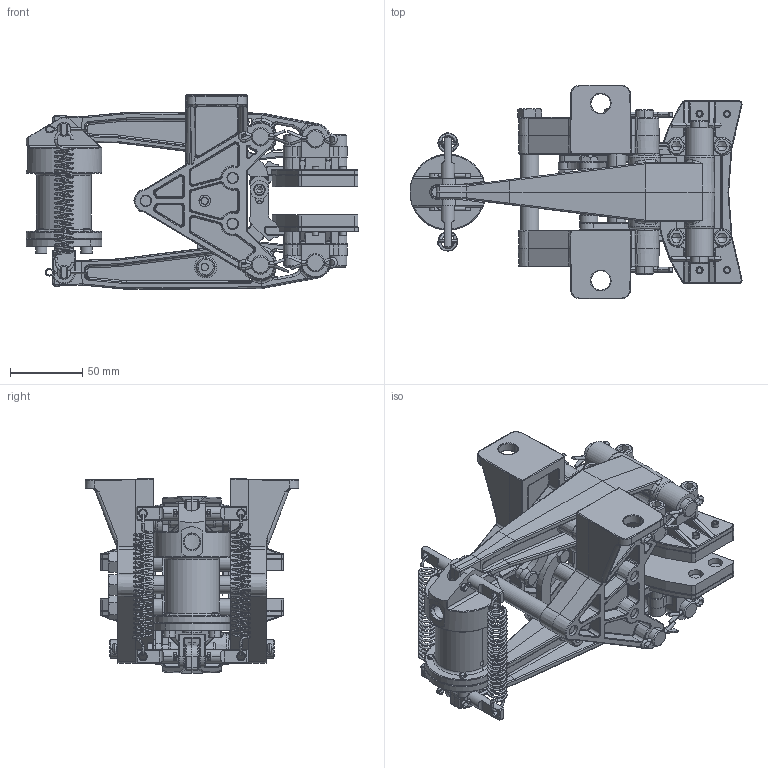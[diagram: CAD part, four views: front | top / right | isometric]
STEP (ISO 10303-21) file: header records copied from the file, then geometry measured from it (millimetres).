
FILE_DESCRIPTION (( 'STEP AP214' ), '1' );
FILE_NAME ('5019-HW.STEP', '2025-05-14T01:32:31', ( '' ), ( '' ), 'SwSTEP 2.0', 'SolidWorks 2023', '' );
FILE_SCHEMA (( 'AUTOMOTIVE_DESIGN' ));
Products named in the file (1): 5019-HW
Bounding box: 230.38 x 148.16 x 135 mm (x, y, z)
Surface area: 279644.4 mm2 (no closed solid volume)
Topology: 0 solids, 112 shells, 2512 faces, 7063 edges, 4514 vertices
Faces by surface type: cylinder 757, plane 671, bspline 515, cone 323, torus 241, sphere 5
Entity records: 116266 total; most frequent: CARTESIAN_POINT 57041, ORIENTED_EDGE 12205, DIRECTION 11839, EDGE_CURVE 6985, AXIS2_PLACEMENT_3D 4572, VERTEX_POINT 4514, EDGE_LOOP 2762, VECTOR 2695
